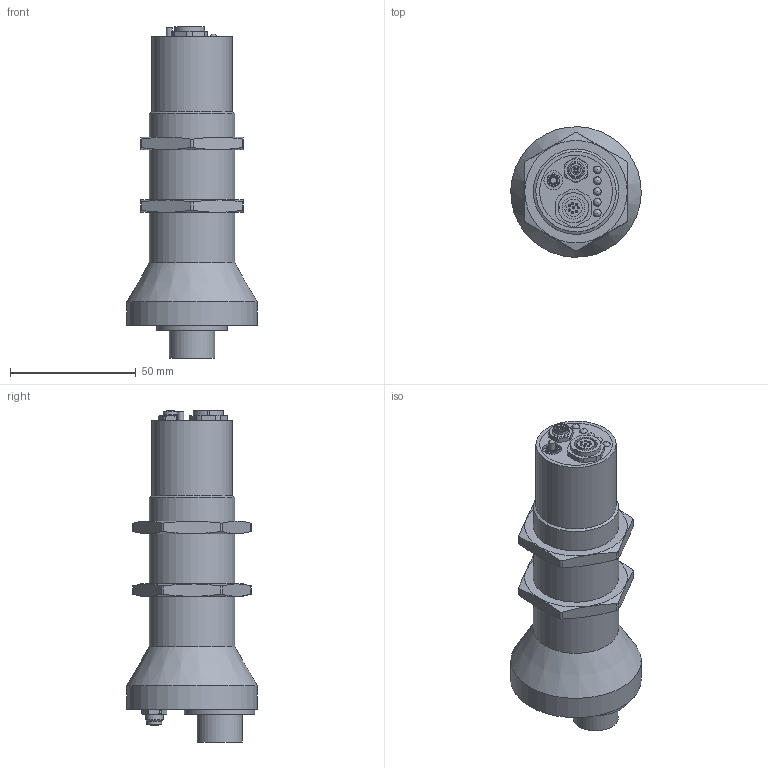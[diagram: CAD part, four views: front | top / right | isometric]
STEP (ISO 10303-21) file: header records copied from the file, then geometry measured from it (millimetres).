
FILE_DESCRIPTION(/* description */ (''),/* implementation_level */ '2;1');
FILE_NAME(/* name */ 'H:\ZVW\Inventor\E-Mail-Zeichnungen\STEP\HOMEPAGE\SPECTRO-3-FIO-UV_0465_06.stp',/* time_stamp */ '2014-01-21T09:14:33+01:00',/* author */ ('TK-02'),/* organization */ (''),/* preprocessor_version */ 'ST-DEVELOPER v15.2',/* originating_system */ 'Autodesk Inventor 2014',/* authorisation */ '');
FILE_SCHEMA (('AUTOMOTIVE_DESIGN { 1 0 10303 214 3 1 1 }'));
Length unit declared in the file: millimetre
Products named in the file (1): Bauteil7
Bounding box: 51.97 x 51.97 x 132.25 mm (x, y, z)
Volume: 130440.8 mm3; surface area: 23268.5 mm2
Topology: 1 solids, 24 shells, 809 faces, 2151 edges, 1420 vertices
Faces by surface type: plane 432, cylinder 282, cone 84, torus 6, sphere 5
Full cylindrical faces by diameter (mm): 0.5 x16, 1.567 x2, 2 x4, 2.2 x4, 2.45 x1, 3 x5, 3.1 x5, 4 x7, 4.2 x1, 5 x2, 5.5 x2, 5.6 x2, 6 x2, 7 x2, 7.05 x2, 7.5 x1, 9 x1, 18 x2, 18.1 x1, 28 x1, 32 x1, 34 x3, 50 x1, 50.1 x1, 52 x1
Entity records: 25943 total; most frequent: CARTESIAN_POINT 6100, ORIENTED_EDGE 3988, DIRECTION 3802, EDGE_CURVE 1994, AXIS2_PLACEMENT_3D 1444, VERTEX_POINT 1378, EDGE_LOOP 1008, LINE 914
